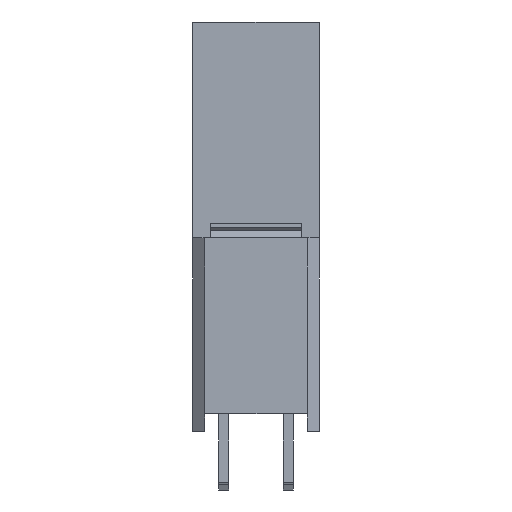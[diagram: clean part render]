
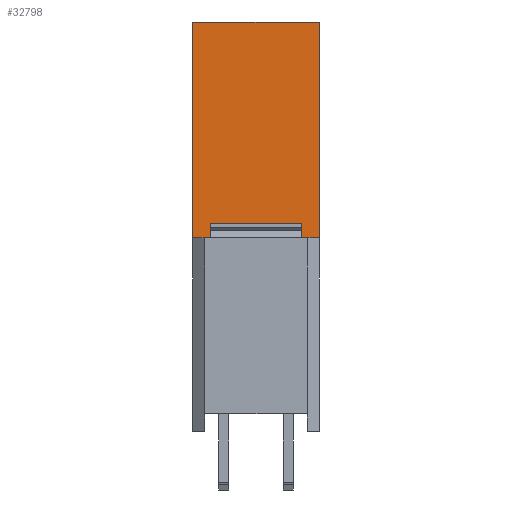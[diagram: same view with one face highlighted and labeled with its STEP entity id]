
A CAD part, left-side view. The second image highlights one B-rep face of the part: STEP entity #32798.
In plain terms, the highlighted planar face has unit normal (-1, 0, 0).
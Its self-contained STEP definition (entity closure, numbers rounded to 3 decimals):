
#1999 = VERTEX_POINT ( 'NONE', #9426 ) ;
#2385 = VERTEX_POINT ( 'NONE', #15568 ) ;
#2445 = VERTEX_POINT ( 'NONE', #15630 ) ;
#2659 = VERTEX_POINT ( 'NONE', #15854 ) ;
#2977 = VERTEX_POINT ( 'NONE', #16188 ) ;
#3043 = VERTEX_POINT ( 'NONE', #16255 ) ;
#3114 = VERTEX_POINT ( 'NONE', #16330 ) ;
#3137 = VERTEX_POINT ( 'NONE', #16354 ) ;
#4457 = VECTOR ( 'NONE', #11356, 1000. ) ;
#9426 = CARTESIAN_POINT ( 'NONE',  ( -13.219, 3.174, 5.08 ) ) ;
#10795 = EDGE_CURVE ( 'NONE', #1999, #2659, #10877, .T. ) ;
#10877 = LINE ( 'NONE', #10906, #44115 ) ;
#10906 = CARTESIAN_POINT ( 'NONE',  ( -13.219, 3.174, 13.58 ) ) ;
#10909 = DIRECTION ( 'NONE',  ( 0., 0., 1. ) ) ;
#11352 = LINE ( 'NONE', #11354, #4457 ) ;
#11354 = CARTESIAN_POINT ( 'NONE',  ( -13.219, -1.826, 9.99 ) ) ;
#11356 = DIRECTION ( 'NONE',  ( 0., 0., 1. ) ) ;
#13458 = LINE ( 'NONE', #13467, #14249 ) ;
#13467 = CARTESIAN_POINT ( 'NONE',  ( -13.219, -1.121, 13.58 ) ) ;
#13469 = DIRECTION ( 'NONE',  ( 0., 0., -1. ) ) ;
#13508 = LINE ( 'NONE', #13509, #14278 ) ;
#13509 = CARTESIAN_POINT ( 'NONE',  ( -13.219, 2.469, 13.58 ) ) ;
#13510 = DIRECTION ( 'NONE',  ( 0., 0., 1. ) ) ;
#13517 = LINE ( 'NONE', #13518, #14284 ) ;
#13518 = CARTESIAN_POINT ( 'NONE',  ( -13.219, 3.174, 5.65 ) ) ;
#13519 = DIRECTION ( 'NONE',  ( 0., 1., 0. ) ) ;
#13520 = LINE ( 'NONE', #13521, #14286 ) ;
#13521 = CARTESIAN_POINT ( 'NONE',  ( -13.219, 3.174, 5.08 ) ) ;
#13522 = DIRECTION ( 'NONE',  ( 0., 1., 0. ) ) ;
#13934 = PLANE ( 'NONE',  #14552 ) ;
#13938 = CARTESIAN_POINT ( 'NONE',  ( -13.219, 3.174, 13.58 ) ) ;
#13946 = FACE_OUTER_BOUND ( 'NONE', #46140, .T. ) ;
#13950 = DIRECTION ( 'NONE',  ( 1., 0., 0. ) ) ;
#13952 = DIRECTION ( 'NONE',  ( 0., 1., 0. ) ) ;
#14249 = VECTOR ( 'NONE', #13469, 1000. ) ;
#14278 = VECTOR ( 'NONE', #13510, 1000. ) ;
#14284 = VECTOR ( 'NONE', #13519, 1000. ) ;
#14286 = VECTOR ( 'NONE', #13522, 1000. ) ;
#14552 = AXIS2_PLACEMENT_3D ( 'NONE', #13938, #13950, #13952 ) ;
#15568 = CARTESIAN_POINT ( 'NONE',  ( -13.219, -1.826, 13.58 ) ) ;
#15630 = CARTESIAN_POINT ( 'NONE',  ( -13.219, -1.826, 5.08 ) ) ;
#15854 = CARTESIAN_POINT ( 'NONE',  ( -13.219, 3.174, 13.58 ) ) ;
#16188 = CARTESIAN_POINT ( 'NONE',  ( -13.219, -1.121, 5.65 ) ) ;
#16255 = CARTESIAN_POINT ( 'NONE',  ( -13.219, -1.121, 5.08 ) ) ;
#16330 = CARTESIAN_POINT ( 'NONE',  ( -13.219, 2.469, 5.08 ) ) ;
#16354 = CARTESIAN_POINT ( 'NONE',  ( -13.219, 2.469, 5.65 ) ) ;
#32648 = EDGE_CURVE ( 'NONE', #2977, #3043, #13458, .T. ) ;
#32662 = EDGE_CURVE ( 'NONE', #3114, #3137, #13508, .T. ) ;
#32665 = EDGE_CURVE ( 'NONE', #2977, #3137, #13517, .T. ) ;
#32666 = EDGE_CURVE ( 'NONE', #3114, #1999, #13520, .T. ) ;
#32798 = ADVANCED_FACE ( 'NONE', ( #13946 ), #13934, .F. ) ;
#36536 = ORIENTED_EDGE ( 'NONE', *, *, #41303, .F. ) ;
#36537 = ORIENTED_EDGE ( 'NONE', *, *, #42608, .T. ) ;
#36538 = ORIENTED_EDGE ( 'NONE', *, *, #41304, .F. ) ;
#36539 = ORIENTED_EDGE ( 'NONE', *, *, #10795, .F. ) ;
#36540 = ORIENTED_EDGE ( 'NONE', *, *, #32666, .F. ) ;
#36541 = ORIENTED_EDGE ( 'NONE', *, *, #32662, .T. ) ;
#36542 = ORIENTED_EDGE ( 'NONE', *, *, #32665, .F. ) ;
#36543 = ORIENTED_EDGE ( 'NONE', *, *, #32648, .T. ) ;
#41303 = EDGE_CURVE ( 'NONE', #2445, #3043, #48541, .T. ) ;
#41304 = EDGE_CURVE ( 'NONE', #2659, #2385, #48544, .T. ) ;
#42608 = EDGE_CURVE ( 'NONE', #2445, #2385, #11352, .T. ) ;
#44115 = VECTOR ( 'NONE', #10909, 1000. ) ;
#46140 = EDGE_LOOP ( 'NONE', ( #36536, #36537, #36538, #36539, #36540, #36541, #36542, #36543 ) ) ;
#47176 = VECTOR ( 'NONE', #48543, 1000. ) ;
#47178 = VECTOR ( 'NONE', #48546, 1000. ) ;
#48541 = LINE ( 'NONE', #48542, #47176 ) ;
#48542 = CARTESIAN_POINT ( 'NONE',  ( -13.219, 3.174, 5.08 ) ) ;
#48543 = DIRECTION ( 'NONE',  ( 0., 1., 0. ) ) ;
#48544 = LINE ( 'NONE', #48545, #47178 ) ;
#48545 = CARTESIAN_POINT ( 'NONE',  ( -13.219, -1.826, 13.58 ) ) ;
#48546 = DIRECTION ( 'NONE',  ( 0., -1., 0. ) ) ;
